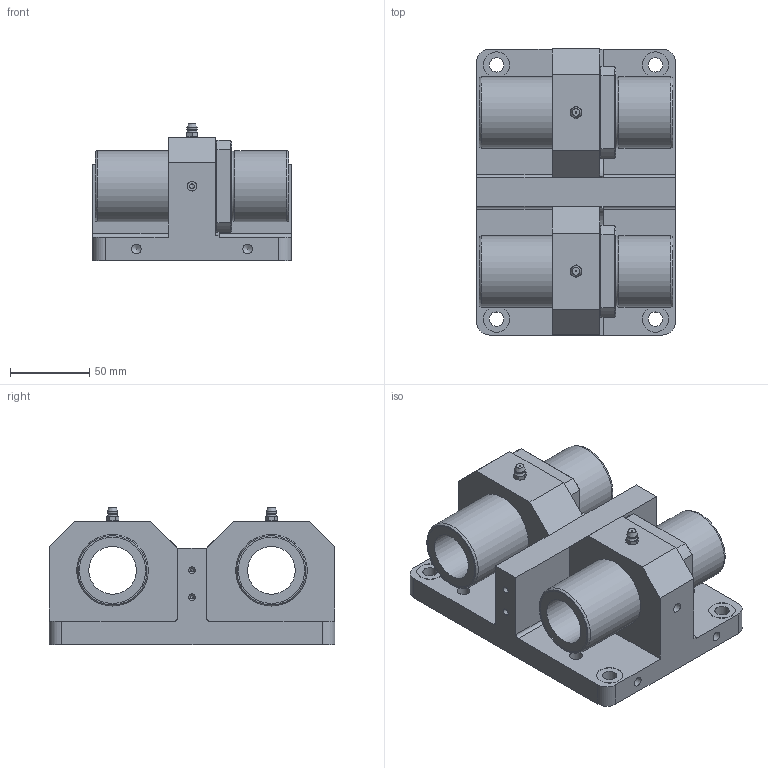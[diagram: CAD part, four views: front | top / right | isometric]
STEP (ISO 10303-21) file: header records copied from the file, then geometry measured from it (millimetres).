
FILE_DESCRIPTION((''),'2;1');
FILE_NAME('D:\製品 (図面)\カタログ用3D\リニアベアリング関連\STEP形式\LUFD\LUFD30.stp','2010-07-29T14:34:53',('Tsuchiya'),(''),'Autodesk Inventor 10','Autodesk Inventor 10','');
FILE_SCHEMA(('AUTOMOTIVE_DESIGN { 1 0 10303 214 1 1 1 1 }'));
Length unit declared in the file: millimetre
Products named in the file (4): LUFD30; LUFD301; LUFD302; LUFD303
Assembly tree (3 placements, depth 2):
  LUFD30
    LUFD301
    LUFD302
    LUFD303
Bounding box: 125 x 180 x 86.8 mm (x, y, z)
Volume: 872835 mm3; surface area: 172103.1 mm2
Topology: 13 solids, 13 shells, 398 faces, 894 edges, 566 vertices
Faces by surface type: plane 160, bspline 83, cylinder 75, cone 64, torus 12, sphere 4
Full cylindrical faces by diameter (mm): 3 x3, 6 x16, 8 x2, 9 x2, 10 x8, 16.5 x2, 30 x2, 41.7 x4, 45 x7
Entity records: 12214 total; most frequent: CARTESIAN_POINT 4644, DIRECTION 1446, ORIENTED_EDGE 1360, EDGE_CURVE 680, EDGE_LOOP 648, AXIS2_PLACEMENT_3D 600, VERTEX_POINT 510, FACE_OUTER_BOUND 398
